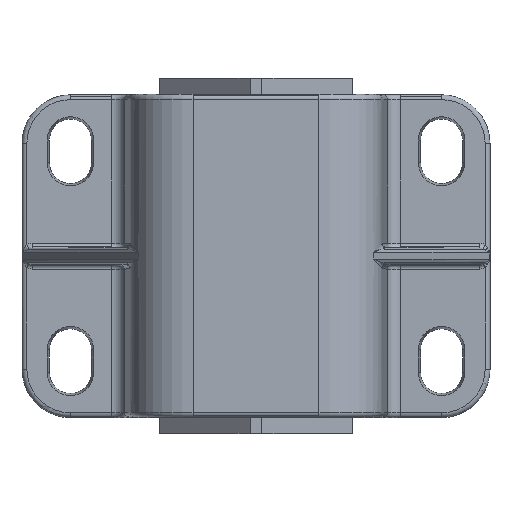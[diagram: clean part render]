
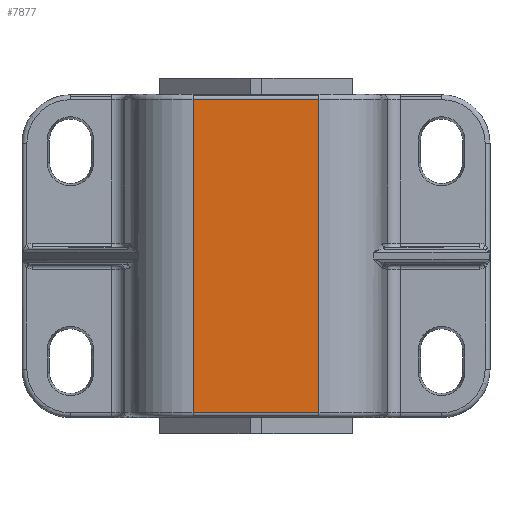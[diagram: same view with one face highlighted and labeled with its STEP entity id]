
A CAD part, top view. The second image highlights one B-rep face of the part: STEP entity #7877.
In plain terms, the highlighted planar face has unit normal (0, 0, 1).
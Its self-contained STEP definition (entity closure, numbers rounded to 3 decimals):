
#556=CARTESIAN_POINT('',(-10.586,-1.5,69.959));
#557=VERTEX_POINT('',#556);
#565=CARTESIAN_POINT('',(28.414,-1.5,69.959));
#566=VERTEX_POINT('',#565);
#567=CARTESIAN_POINT('',(-10.586,-1.5,69.959));
#568=DIRECTION('',(1.0,0.0,0.0));
#569=VECTOR('',#568,39.);
#570=LINE('',#567,#569);
#571=EDGE_CURVE('',#557,#566,#570,.T.);
#5187=CARTESIAN_POINT('',(28.414,-98.5,69.959));
#5188=VERTEX_POINT('',#5187);
#5189=CARTESIAN_POINT('',(28.414,-1.5,69.959));
#5190=DIRECTION('',(0.0,-1.0,0.0));
#5191=VECTOR('',#5190,97.0);
#5192=LINE('',#5189,#5191);
#5193=EDGE_CURVE('',#566,#5188,#5192,.T.);
#6928=CARTESIAN_POINT('',(-10.586,-98.5,69.959));
#6929=VERTEX_POINT('',#6928);
#6937=CARTESIAN_POINT('',(-10.586,-1.5,69.959));
#6938=DIRECTION('',(0.0,-1.0,0.0));
#6939=VECTOR('',#6938,97.0);
#6940=LINE('',#6937,#6939);
#6941=EDGE_CURVE('',#557,#6929,#6940,.T.);
#7861=CARTESIAN_POINT('',(-10.586,0.0,69.959));
#7862=DIRECTION('',(0.0,0.0,1.0));
#7863=DIRECTION('',(1.0,0.0,0.0));
#7864=AXIS2_PLACEMENT_3D('',#7861,#7862,#7863);
#7865=PLANE('',#7864);
#7866=ORIENTED_EDGE('',*,*,#571,.F.);
#7867=ORIENTED_EDGE('',*,*,#6941,.T.);
#7868=CARTESIAN_POINT('',(28.414,-98.5,69.959));
#7869=DIRECTION('',(-1.0,0.0,0.0));
#7870=VECTOR('',#7869,39.);
#7871=LINE('',#7868,#7870);
#7872=EDGE_CURVE('',#5188,#6929,#7871,.T.);
#7873=ORIENTED_EDGE('',*,*,#7872,.F.);
#7874=ORIENTED_EDGE('',*,*,#5193,.F.);
#7875=EDGE_LOOP('',(#7866,#7867,#7873,#7874));
#7876=FACE_OUTER_BOUND('',#7875,.T.);
#7877=ADVANCED_FACE('',(#7876),#7865,.T.);
